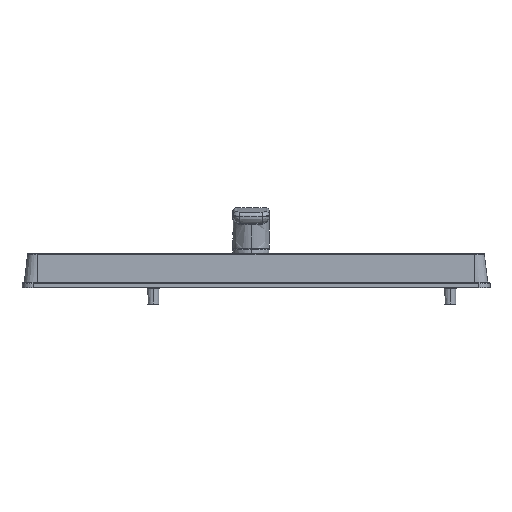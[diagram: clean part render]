
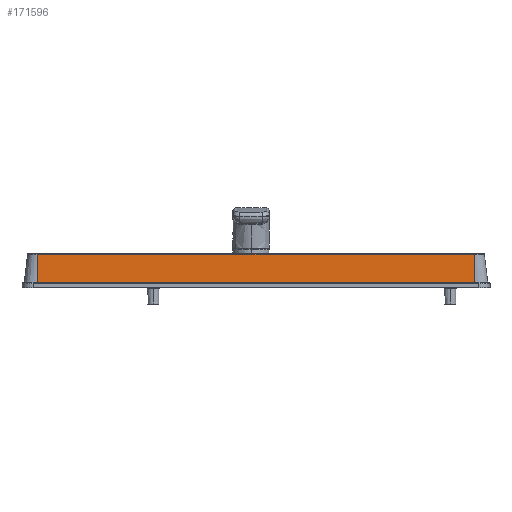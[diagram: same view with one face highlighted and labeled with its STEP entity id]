
A CAD part, left-side view. The second image highlights one B-rep face of the part: STEP entity #171596.
In plain terms, the highlighted planar face has unit normal (-1, 0, 0.018).
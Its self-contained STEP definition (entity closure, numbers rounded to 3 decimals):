
#10045 = VERTEX_POINT ( 'NONE', #124275 ) ;
#14368 = EDGE_CURVE ( 'NONE', #10045, #169294, #159453, .T. ) ;
#23919 = VERTEX_POINT ( 'NONE', #186963 ) ;
#27063 = DIRECTION ( 'NONE',  ( -0.017, 0., -1. ) ) ;
#42013 = LINE ( 'NONE', #94755, #49587 ) ;
#45757 = DIRECTION ( 'NONE',  ( 0., 1., 0. ) ) ;
#47769 = EDGE_LOOP ( 'NONE', ( #185462, #207916, #193011, #72201 ) ) ;
#49587 = VECTOR ( 'NONE', #27063, 1000. ) ;
#49853 = AXIS2_PLACEMENT_3D ( 'NONE', #111724, #93356, #143930 ) ;
#50797 = DIRECTION ( 'NONE',  ( -0.017, 0., -1. ) ) ;
#55297 = VECTOR ( 'NONE', #88316, 1000. ) ;
#58617 = VERTEX_POINT ( 'NONE', #129662 ) ;
#72201 = ORIENTED_EDGE ( 'NONE', *, *, #137114, .T. ) ;
#75023 = FACE_OUTER_BOUND ( 'NONE', #47769, .T. ) ;
#83206 = VECTOR ( 'NONE', #50797, 1000. ) ;
#88316 = DIRECTION ( 'NONE',  ( 0., -1., 0. ) ) ;
#93356 = DIRECTION ( 'NONE',  ( -1., 0., 0.017 ) ) ;
#94755 = CARTESIAN_POINT ( 'NONE',  ( -17.325, -136.85, 10. ) ) ;
#97359 = CARTESIAN_POINT ( 'NONE',  ( -17.159, 130.85, 19.509 ) ) ;
#105558 = CARTESIAN_POINT ( 'NONE',  ( -17.491, 136.85, 0.509 ) ) ;
#111724 = CARTESIAN_POINT ( 'NONE',  ( -17.5, 136.85, 0. ) ) ;
#113488 = LINE ( 'NONE', #97359, #174833 ) ;
#124179 = LINE ( 'NONE', #157472, #83206 ) ;
#124275 = CARTESIAN_POINT ( 'NONE',  ( -17.491, 130.85, 0.509 ) ) ;
#126722 = PLANE ( 'NONE',  #49853 ) ;
#129662 = CARTESIAN_POINT ( 'NONE',  ( -17.159, -136.85, 19.509 ) ) ;
#137114 = EDGE_CURVE ( 'NONE', #58617, #23919, #113488, .T. ) ;
#143930 = DIRECTION ( 'NONE',  ( 0.017, 0., 1. ) ) ;
#149827 = CARTESIAN_POINT ( 'NONE',  ( -17.491, -136.85, 0.509 ) ) ;
#157472 = CARTESIAN_POINT ( 'NONE',  ( -17.325, 130.85, 10. ) ) ;
#159453 = LINE ( 'NONE', #105558, #55297 ) ;
#165988 = EDGE_CURVE ( 'NONE', #23919, #10045, #124179, .T. ) ;
#169294 = VERTEX_POINT ( 'NONE', #149827 ) ;
#171596 = ADVANCED_FACE ( 'NONE', ( #75023 ), #126722, .T. ) ;
#174833 = VECTOR ( 'NONE', #45757, 1000. ) ;
#185462 = ORIENTED_EDGE ( 'NONE', *, *, #165988, .T. ) ;
#186963 = CARTESIAN_POINT ( 'NONE',  ( -17.159, 130.85, 19.509 ) ) ;
#193011 = ORIENTED_EDGE ( 'NONE', *, *, #218616, .F. ) ;
#207916 = ORIENTED_EDGE ( 'NONE', *, *, #14368, .T. ) ;
#218616 = EDGE_CURVE ( 'NONE', #58617, #169294, #42013, .T. ) ;
